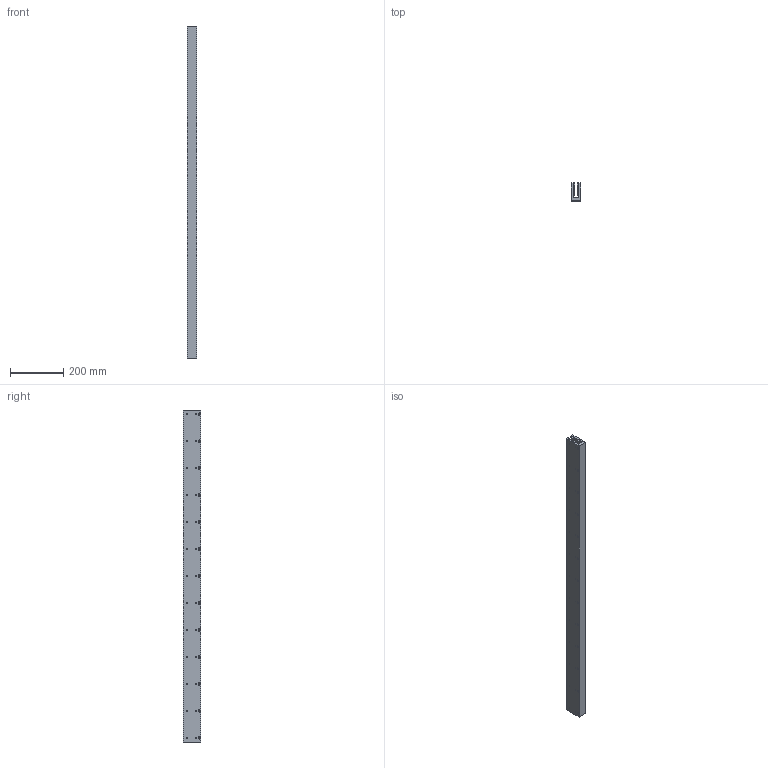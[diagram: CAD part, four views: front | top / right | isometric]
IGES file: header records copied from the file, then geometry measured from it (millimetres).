
Global section: file name: No Iges File Name specified; native system: Autodesk Inventor 2009; preprocessor: AutoDesk Inventor Iges Exporter R2009; author: je17857; date: 20091116.111701; units: inch
Bounding box: 34.29 x 67.31 x 1249.68 mm (x, y, z)
Volume: 1867423.5 mm3; surface area: 470903.5 mm2
Topology: 1 solids, 1 shells, 654 faces, 1554 edges, 1036 vertices
Faces by surface type: plane 446, bspline 208
